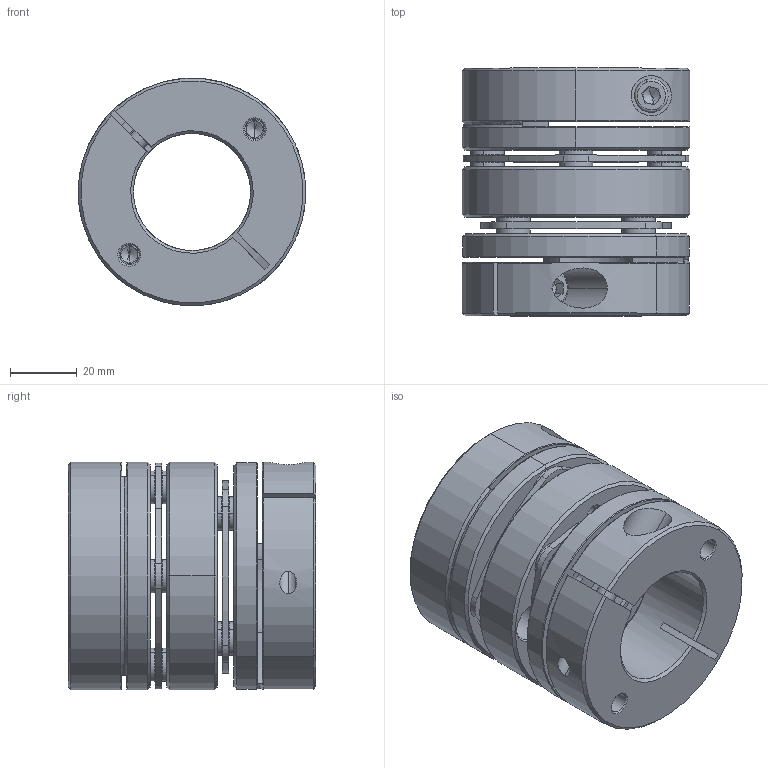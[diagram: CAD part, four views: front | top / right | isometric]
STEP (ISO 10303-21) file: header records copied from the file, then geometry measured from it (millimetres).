
FILE_DESCRIPTION (( 'STEP AP203' ), '1' );
FILE_NAME ('LD2-D68-35-35.STEP', '2021-10-26T08:47:32', ( '' ), ( '' ), 'SwSTEP 2.0', 'SolidWorks 2018', '' );
FILE_SCHEMA (( 'CONFIG_CONTROL_DESIGN' ));
Length unit declared in the file: millimetre
Products named in the file (2): 錨璃102^LD2-D68; LD2-D68-35-35
Assembly tree (1 placements, depth 2):
  LD2-D68-35-35
    錨璃102^LD2-D68
Bounding box: 68 x 74 x 68 mm (x, y, z)
Volume: 160115.5 mm3; surface area: 61657.8 mm2
Topology: 1 solids, 27 shells, 732 faces, 1696 edges, 1032 vertices
Faces by surface type: cylinder 256, cone 226, plane 220, torus 30
Entity records: 21398 total; most frequent: DIRECTION 3974, CARTESIAN_POINT 3912, ORIENTED_EDGE 3344, EDGE_CURVE 1672, AXIS2_PLACEMENT_3D 1614, VERTEX_POINT 1032, CIRCLE 878, EDGE_LOOP 868
